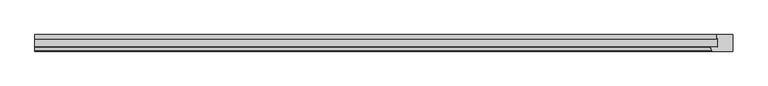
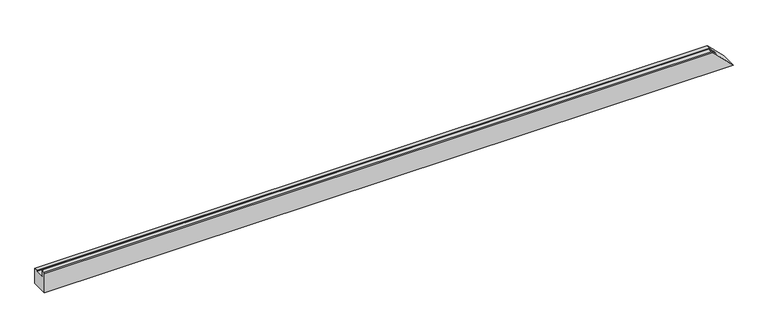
"""IFC4 building model written with IfcOpenShell, lengths in millimetres: proxy geometry, Weiku - Montante - Caixilho 02.2.01.005 : Weiku - Montante - Caixilho 02.2.01.005."""

import ifcopenshell
import ifcopenshell.guid

model = None  # the IFC model being written
_history = None  # IfcOwnerHistory: only IFC2X3 demands one
_inside = {}  # id of a spatial element -> (the spatial element, [elements in it])
_under = {}  # id of a project, library or spatial element -> (it, [spatial elements below it])
_declared = {}  # id of a project -> (the project, [libraries it declares])
_typed = {}  # id of a type object -> (the type object, [elements of that type])
_made_of = {}  # id of a material, layer set ... -> (it, [elements and type objects made of it])


def new_model(schema):
    """Start an empty IFC model of exactly this schema.

    Asked for "IFC4X3", IfcOpenShell would pick the latest addendum, in which some entities
    have other attributes; the version numbers below select the first issue.
    IFC2X3 requires an IfcOwnerHistory on every rooted entity: one is made here for all.
    """
    global model, _history
    if schema == "IFC4X3":
        model = ifcopenshell.file(schema_version=(4, 3, 0, 0))
    else:
        model = ifcopenshell.file(schema=schema)
    _inside.clear()
    _under.clear()
    _declared.clear()
    _typed.clear()
    _made_of.clear()
    _history = None
    if model.schema == "IFC2X3":
        org = make("IfcOrganization", Name="unknown")
        user = make(
            "IfcPersonAndOrganization",
            ThePerson=make("IfcPerson", FamilyName="unknown"),
            TheOrganization=org,
        )
        app = make(
            "IfcApplication",
            ApplicationDeveloper=org,
            Version="unknown",
            ApplicationFullName="unknown",
            ApplicationIdentifier="unknown",
        )
        _history = make(
            "IfcOwnerHistory",
            OwningUser=user,
            OwningApplication=app,
            ChangeAction="ADDED",
            CreationDate=0,
        )
    return model


def make(cls, **values):
    """One entity of the class cls with the attributes given. An attribute that is None is left unset."""
    return model.create_entity(
        cls, **{name: value for name, value in values.items() if value is not None}
    )


def rooted(cls, **values):
    """An entity with a GlobalId (a new one), such as an element, a storey or a relation."""
    return make(cls, GlobalId=ifcopenshell.guid.new(), OwnerHistory=_history, **values)


def si_unit(unit_type, name, prefix=None):
    """IfcSIUnit, for example si_unit("LENGTHUNIT", "METRE", prefix="MILLI")."""
    return make("IfcSIUnit", UnitType=unit_type, Prefix=prefix, Name=name)


def assignment(units):
    """IfcUnitAssignment: the units of a project."""
    return None if units is None else make("IfcUnitAssignment", Units=units)


def point(xyz):
    """IfcCartesianPoint."""
    return None if xyz is None else make("IfcCartesianPoint", Coordinates=xyz)


def direction(xyz):
    """IfcDirection."""
    return None if xyz is None else make("IfcDirection", DirectionRatios=xyz)


def frame(location, z_axis=None, x_axis=None):
    """IfcAxis2Placement3D, a coordinate frame: its origin and axes. An axis left out is left unset."""
    return make(
        "IfcAxis2Placement3D",
        Location=point(location),
        Axis=direction(z_axis),
        RefDirection=direction(x_axis),
    )


def origin():
    """The frame at (0, 0, 0) with its axes left unset."""
    return frame((0.0, 0.0, 0.0))


def place(relative_to, where):
    """IfcLocalPlacement: puts the frame where relative to a parent placement (None: the world)."""
    return make(
        "IfcLocalPlacement", PlacementRelTo=relative_to, RelativePlacement=where
    )


def context(
    kind, dimensions, precision=None, world=None, true_north=None, identifier=None
):
    """IfcGeometricRepresentationContext, for example the 3D "Model" context."""
    return make(
        "IfcGeometricRepresentationContext",
        ContextIdentifier=identifier,
        ContextType=kind,
        CoordinateSpaceDimension=dimensions,
        Precision=precision,
        WorldCoordinateSystem=world,
        TrueNorth=true_north,
    )


def project(units=None, contexts=None):
    """IfcProject with its units and contexts."""
    return rooted(
        "IfcProject",
        Name="project",
        RepresentationContexts=contexts,
        UnitsInContext=assignment(units),
    )


def spatial(cls, under=None, at=None, **own):
    """A site, building, storey or space (cls), placed at a placement, below another one or the project."""
    s = rooted(cls, ObjectPlacement=at, **own)
    if under is not None:
        _under.setdefault(under.id(), (under, []))[1].append(s)
    return s


def circle_curve(where, radius):
    """IfcCircle in the frame where."""
    return make("IfcCircle", Position=where, Radius=radius)


def ellipse_curve(where, semi_axis1, semi_axis2):
    """IfcEllipse in the frame where."""
    return make(
        "IfcEllipse", Position=where, SemiAxis1=semi_axis1, SemiAxis2=semi_axis2
    )


def shape(context_of_items, identifier, shape_type, items):
    """IfcShapeRepresentation: the items that make up one representation, for example the "Body"."""
    return make(
        "IfcShapeRepresentation",
        ContextOfItems=context_of_items,
        RepresentationIdentifier=identifier,
        RepresentationType=shape_type,
        Items=items,
    )


def source(mapping_origin, context_of_items, identifier, shape_type, items):
    """IfcRepresentationMap: a shape defined once, which mapped items show again and again."""
    return make(
        "IfcRepresentationMap",
        MappingOrigin=mapping_origin,
        MappedRepresentation=shape(context_of_items, identifier, shape_type, items),
    )


def transform(
    local_origin,
    x_axis=None,
    y_axis=None,
    z_axis=None,
    scale=None,
    scale2=None,
    scale3=None,
    uniform=True,
):
    """IfcCartesianTransformationOperator3D, or its non-uniform kind. x_axis, y_axis, z_axis: its Axis1, 2, 3."""
    if uniform:
        return make(
            "IfcCartesianTransformationOperator3D",
            Axis1=direction(x_axis),
            Axis2=direction(y_axis),
            LocalOrigin=point(local_origin),
            Scale=scale,
            Axis3=direction(z_axis),
        )
    return make(
        "IfcCartesianTransformationOperator3DnonUniform",
        Axis1=direction(x_axis),
        Axis2=direction(y_axis),
        LocalOrigin=point(local_origin),
        Scale=scale,
        Axis3=direction(z_axis),
        Scale2=scale2,
        Scale3=scale3,
    )


def mapped(mapping_source, mapping_target):
    """IfcMappedItem: shows the shape of a source again, moved by a transform."""
    return make(
        "IfcMappedItem", MappingSource=mapping_source, MappingTarget=mapping_target
    )


def made_of(thing, what):
    """Note that an element or type object is made of a material, layer set ...; save() writes the relation."""
    if what is not None:
        _made_of.setdefault(what.id(), (what, []))[1].append(thing)
    return thing


def element(
    cls,
    number,
    at=None,
    inside=None,
    cuts=None,
    type_object=None,
    material=None,
    context=None,
    identifier="Body",
    shape_type=None,
    held_by="IfcProductDefinitionShape",
    body=None,
    shapes=None,
    **own,
):
    """One element of the class cls, such as IfcWall. Its Tag is "e" and its number.

    at: its placement. inside: the storey or other place that contains it. cuts: it is an
    opening in that element (IfcRelVoidsElement). A single representation is given by context,
    identifier, shape_type and body (its items); several are given by shapes. held_by: the class
    of the entity that holds the representations. save() writes the other relations.
    """
    e = rooted(cls, Tag="e%d" % number, ObjectPlacement=at, **own)
    if body is not None:
        shapes = [shape(context, identifier, shape_type, body)]
    if shapes is not None:
        e.Representation = make(held_by, Representations=shapes)
    if inside is not None:
        _inside.setdefault(inside.id(), (inside, []))[1].append(e)
    if cuts is not None:
        rooted(
            "IfcRelVoidsElement", RelatingBuildingElement=cuts, RelatedOpeningElement=e
        )
    if type_object is not None:
        _typed.setdefault(type_object.id(), (type_object, []))[1].append(e)
    return made_of(e, material)


def aggregate(whole, parts):
    """IfcRelAggregates: a whole, such as a stair, and the parts it consists of."""
    return rooted("IfcRelAggregates", RelatingObject=whole, RelatedObjects=parts)


def save(model, path):
    """Write the relations noted so far, then the file.

    IfcRelAggregates (storeys below a building ...), IfcRelContainedInSpatialStructure (elements
    in a storey), IfcRelDefinesByType, IfcRelAssociatesMaterial and IfcRelDeclares: one each for
    every whole, place, type object, material and project.
    """
    for whole, parts in _under.values():
        aggregate(whole, parts)
    for where, things in _inside.values():
        rooted(
            "IfcRelContainedInSpatialStructure",
            RelatedElements=things,
            RelatingStructure=where,
        )
    for kind, things in _typed.values():
        rooted("IfcRelDefinesByType", RelatedObjects=things, RelatingType=kind)
    for what, things in _made_of.values():
        rooted("IfcRelAssociatesMaterial", RelatedObjects=things, RelatingMaterial=what)
    for by, libraries in _declared.values():
        rooted("IfcRelDeclares", RelatingContext=by, RelatedDefinitions=libraries)
    model.write(path)


def plane_surface(at):
    """IfcPlane: the flat surface through the origin of the frame at, square to its z axis."""
    return make("IfcPlane", Position=at)


def cylinder_surface(at, radius):
    """IfcCylindricalSurface: all points at the distance radius from the z axis of the frame at."""
    return make("IfcCylindricalSurface", Position=at, Radius=radius)


def advanced_brep(points, edges, surfaces, faces):
    """IfcAdvancedBrep: a solid bounded by faces that lie on surfaces and meet in shared edges.

    An edge is (start, end): straight between two places in points (the first is 0);
    or (start, end, curve); or (start, end, curve, False) where it runs against its curve.
    A face is (place in surfaces, loops), or (place, loops, False) where it looks against
    its surface's normal. A loop lists edges by number (the first is 1), with a minus sign
    where the edge is run from its end to its start. The first loop is the outer one.
    """
    corners = [point(p) for p in points]
    vertices = [make("IfcVertexPoint", VertexGeometry=c) for c in corners]
    made = []
    for start, end, *more in edges:
        made.append(
            make(
                "IfcEdgeCurve",
                EdgeStart=vertices[start],
                EdgeEnd=vertices[end],
                EdgeGeometry=more[0] if more else make("IfcPolyline", Points=[corners[start], corners[end]]),
                SameSense=more[1] if len(more) > 1 else True,
            )
        )
    hull = []
    for where, loops, *sense in faces:
        bounds = []
        for j, loop in enumerate(loops):
            ring = [make("IfcOrientedEdge", EdgeElement=made[abs(k) - 1], Orientation=k > 0) for k in loop]
            bounds.append(
                make(
                    "IfcFaceOuterBound" if j == 0 else "IfcFaceBound",
                    Bound=make("IfcEdgeLoop", EdgeList=ring),
                    Orientation=True,
                )
            )
        hull.append(make("IfcAdvancedFace", Bounds=bounds, FaceSurface=surfaces[where], SameSense=sense[0] if sense else True))
    return make("IfcAdvancedBrep", Outer=make("IfcClosedShell", CfsFaces=hull))


def generic_models_2bc497db(model_context):
    return source(origin(), model_context, "Body", "AdvancedBrep", [
        advanced_brep(
        [(-1047.5, 12.5, 46.0), (-1047.5, 12.5, 66.1090324), (981.3909676, 12.5, 66.1090324), (1001.5, 12.5, 46.0), (-1047.5, 37.8314286, 46.0), (1001.5, 37.8314286, 46.0), (-1047.5, 37.027581, 49.0), (998.5, 37.027581, 49.0), (-1047.5, 50.0, 49.0), (998.5, 50.0, 49.0), (-1047.5, 50.0, 0.0), (1047.5, 50.0, 0.0), (-1047.5, 0.0, 0.0), (1047.5, 0.0, 0.0), (-1047.5, 0.0, 61.5002668), (985.9997332, 0.0, 61.5002668), (-1047.5, 11.4929448, 66.881773), (-1047.5, 2.2235429, 64.3980443), (983.1019557, 2.2235429, 64.3980443), (980.618227, 11.4929448, 66.881773)],
        [
            (0, 1),
            (1, 2),
            (2, 3),
            (3, 0),
            (4, 0),
            (3, 5),
            (5, 4),
            (6, 4),
            (5, 7),
            (7, 6),
            (8, 6),
            (7, 9),
            (9, 8),
            (10, 8),
            (9, 11),
            (11, 10),
            (12, 10),
            (11, 13),
            (13, 12),
            (14, 12),
            (13, 15),
            (15, 14),
            (16, 17),
            (17, 18),
            (18, 19),
            (19, 16),
            (2, 19, ellipse_curve(frame((981.3909676, 11.7, 66.1090324), z_axis=(0.7071067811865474, 0.0, 0.7071067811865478), x_axis=(-0.7071067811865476, 0.0, 0.7071067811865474)), 1.1313708, 0.8)),
            (18, 15, ellipse_curve(frame((985.9997332, 3.0, 61.5002668), z_axis=(0.7071067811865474, 0.0, 0.7071067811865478), x_axis=(-0.7071067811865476, 0.0, 0.7071067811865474)), 4.2426407, 3.0)),
            (1, 16, circle_curve(frame((-1047.5, 11.7, 66.1090324), z_axis=(1.0, 0.0, 0.0), x_axis=(0.0, 1.0, 0.0)), 0.8)),
            (17, 14, circle_curve(frame((-1047.5, 3.0, 61.5002668), z_axis=(1.0, 0.0, 0.0), x_axis=(0.0, 1.0, 0.0)), 3.0)),
        ],
        [
            plane_surface(frame((-1047.5, 12.5, 66.1090324), z_axis=(0.0, 1.0, 0.0), x_axis=(1.0, 0.0, 0.0))),
            plane_surface(frame((-1047.5, 12.5, 46.0), z_axis=(0.0, 0.0, 1.0), x_axis=(1.0, 0.0, 0.0))),
            plane_surface(frame((-1047.5, 37.8314286, 46.0), z_axis=(0.0, -0.9659258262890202, -0.2588190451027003), x_axis=(1.0, 0.0, 0.0))),
            plane_surface(frame((-1047.5, 37.027581, 49.0), z_axis=(0.0, 0.0, 1.0), x_axis=(1.0, 0.0, 0.0))),
            plane_surface(frame((-1047.5, 50.0, 49.0), z_axis=(0.0, 1.0, 0.0), x_axis=(1.0, 0.0, 0.0))),
            plane_surface(frame((-1047.5, 50.0, 0.0), z_axis=(0.0, 0.0, -1.0), x_axis=(1.0, 0.0, 0.0))),
            plane_surface(frame((-1047.5, 0.0, 0.0), z_axis=(0.0, -1.0, 0.0), x_axis=(1.0, 0.0, 0.0))),
            plane_surface(frame((-1047.5, 2.2235429, 64.3980443), z_axis=(0.0, -0.2588190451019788, 0.9659258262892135), x_axis=(1.0, 0.0, 0.0))),
            plane_surface(frame((977.5, -15.0, 70.0), z_axis=(0.7071067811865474, 0.0, 0.7071067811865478), x_axis=(0.0, 1.0, 0.0))),
            cylinder_surface(frame((-1047.5, 11.7, 66.1090324), z_axis=(-1.0, 0.0, 0.0), x_axis=(0.0, 1.0, 0.0)), 0.8),
            cylinder_surface(frame((-1047.5, 3.0, 61.5002668), z_axis=(-1.0, 0.0, 0.0), x_axis=(0.0, 1.0, 0.0)), 3.0),
            plane_surface(frame((-1047.5, 0.0, 0.0), z_axis=(-1.0, 0.0, 0.0), x_axis=(0.0, 0.0, 1.0))),
        ],
        [
            (0, [[1, 2, 3, 4]]),
            (1, [[5, -4, 6, 7]]),
            (2, [[8, -7, 9, 10]]),
            (3, [[11, -10, 12, 13]]),
            (4, [[14, -13, 15, 16]]),
            (5, [[17, -16, 18, 19]]),
            (6, [[20, -19, 21, 22]]),
            (7, [[23, 24, 25, 26]]),
            (8, [[-3, 27, -25, 28, -21, -18, -15, -12, -9, -6]]),
            (9, [[29, -26, -27, -2]]),
            (10, [[30, -22, -28, -24]]),
            (11, [[-29, -1, -5, -8, -11, -14, -17, -20, -30, -23]]),
        ],
    ),
    ])


if __name__ == "__main__":
    model = new_model("IFC4")
    model_context = context("Model", 3, world=origin())
    ifc_project = project(units=[si_unit("LENGTHUNIT", "METRE", prefix="MILLI")], contexts=[model_context])
    site = spatial("IfcSite", under=ifc_project)
    building = spatial("IfcBuilding", under=site)
    placement = place(None, origin())
    generic_models_shape = generic_models_2bc497db(model_context)
    element("IfcBuildingElementProxy", 1, Name="Weiku - Montante - Caixilho 02.2.01.005 : Weiku - Montante - Caixilho 02.2.01.005", ObjectType="Weiku - Montante - Caixilho 02.2.01.005 : Weiku - Montante - Caixilho 02.2.01.005", at=placement, inside=building, context=model_context, shape_type="MappedRepresentation", body=[
        mapped(generic_models_shape, transform((0.0, 0.0, 0.0), x_axis=(1.0, 0.0, 0.0), y_axis=(0.0, 1.0, 0.0), z_axis=(0.0, 0.0, 1.0))),
    ])
    save(model, "model.ifc")
